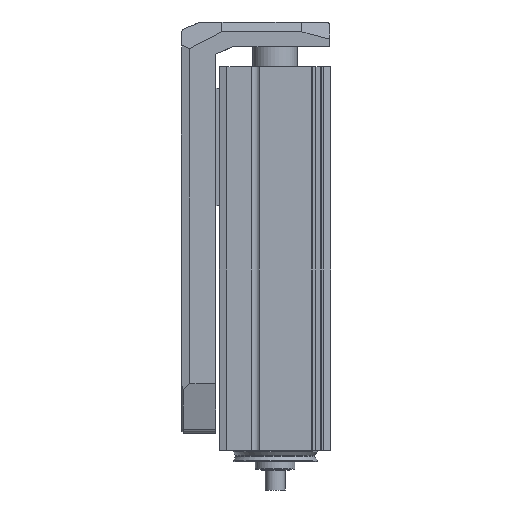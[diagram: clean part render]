
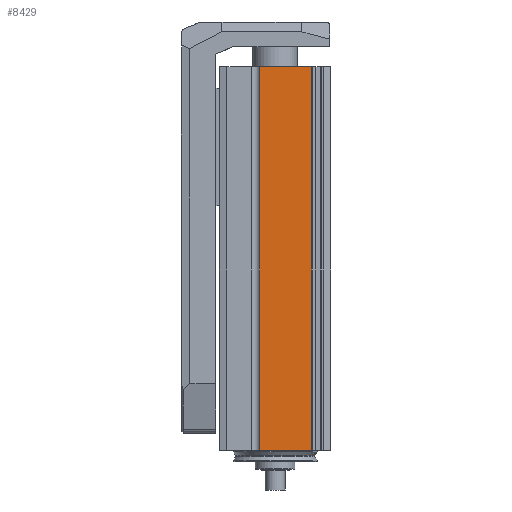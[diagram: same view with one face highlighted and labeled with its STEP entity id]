
A CAD part, left-side view. The second image highlights one B-rep face of the part: STEP entity #8429.
In plain terms, the highlighted planar face has unit normal (-1, 0, 0) as drawn and (0, 0, 1) by its records, which use the part's own axes.
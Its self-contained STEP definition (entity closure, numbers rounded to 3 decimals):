
#773=LINE('',#13561,#1303);
#789=LINE('',#13607,#1319);
#790=LINE('',#13611,#1320);
#791=LINE('',#13613,#1321);
#1303=VECTOR('',#10859,1000.);
#1319=VECTOR('',#10905,1000.);
#1320=VECTOR('',#10910,1000.);
#1321=VECTOR('',#10911,1000.);
#2647=ORIENTED_EDGE('',*,*,#4217,.T.);
#2648=ORIENTED_EDGE('',*,*,#4242,.F.);
#2649=ORIENTED_EDGE('',*,*,#4243,.F.);
#2650=ORIENTED_EDGE('',*,*,#4240,.T.);
#4217=EDGE_CURVE('',#5077,#5076,#773,.T.);
#4240=EDGE_CURVE('',#5092,#5077,#789,.T.);
#4242=EDGE_CURVE('',#5093,#5076,#790,.T.);
#4243=EDGE_CURVE('',#5092,#5093,#791,.T.);
#5076=VERTEX_POINT('',#13560);
#5077=VERTEX_POINT('',#13562);
#5092=VERTEX_POINT('',#13608);
#5093=VERTEX_POINT('',#13612);
#6009=EDGE_LOOP('',(#2647,#2648,#2649,#2650));
#6621=FACE_BOUND('',#6009,.T.);
#6947=PLANE('',#9134);
#8429=ADVANCED_FACE('',(#6621),#6947,.F.);
#9134=AXIS2_PLACEMENT_3D('',#13610,#10908,#10909);
#10859=DIRECTION('',(0.,-1.,0.));
#10905=DIRECTION('',(-1.,0.,0.));
#10908=DIRECTION('',(0.,0.,-1.));
#10909=DIRECTION('',(-1.,0.,0.));
#10910=DIRECTION('',(-1.,0.,0.));
#10911=DIRECTION('',(0.,-1.,0.));
#13560=CARTESIAN_POINT('',(0.,-6.3,22.5));
#13561=CARTESIAN_POINT('',(0.,14.82,22.5));
#13562=CARTESIAN_POINT('',(0.,14.82,22.5));
#13607=CARTESIAN_POINT('',(155.,14.82,22.5));
#13608=CARTESIAN_POINT('',(155.,14.82,22.5));
#13610=CARTESIAN_POINT('',(155.,14.82,22.5));
#13611=CARTESIAN_POINT('',(155.,-6.3,22.5));
#13612=CARTESIAN_POINT('',(155.,-6.3,22.5));
#13613=CARTESIAN_POINT('',(155.,14.82,22.5));
